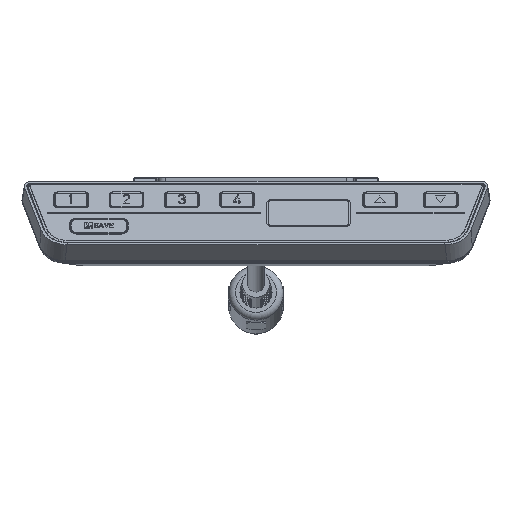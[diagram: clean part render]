
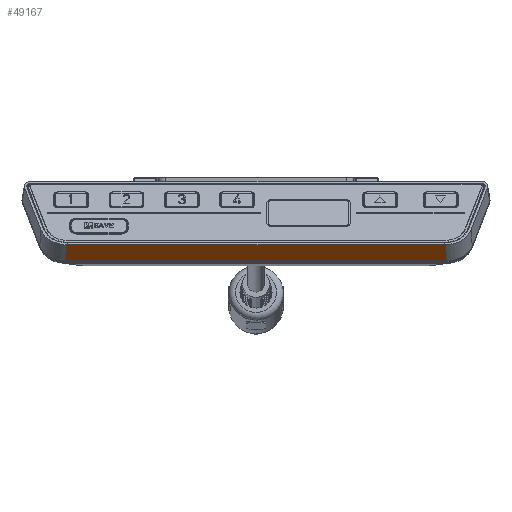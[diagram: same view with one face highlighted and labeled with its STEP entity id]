
A CAD part, front view. The second image highlights one B-rep face of the part: STEP entity #49167.
In plain terms, the highlighted planar face has unit normal (0, -0.675, -0.738).
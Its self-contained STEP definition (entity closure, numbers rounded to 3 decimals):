
#3747=LINE('',#82410,#8291);
#3748=LINE('',#82413,#8292);
#3749=LINE('',#82415,#8293);
#3750=LINE('',#82417,#8294);
#8291=VECTOR('',#62240,1000.);
#8292=VECTOR('',#62241,1000.);
#8293=VECTOR('',#62242,1000.);
#8294=VECTOR('',#62243,1000.);
#17471=ORIENTED_EDGE('',*,*,#29843,.T.);
#17472=ORIENTED_EDGE('',*,*,#29844,.T.);
#17473=ORIENTED_EDGE('',*,*,#29845,.T.);
#17474=ORIENTED_EDGE('',*,*,#29846,.F.);
#29843=EDGE_CURVE('',#36380,#36381,#3747,.T.);
#29844=EDGE_CURVE('',#36381,#36382,#3748,.T.);
#29845=EDGE_CURVE('',#36382,#36383,#3749,.T.);
#29846=EDGE_CURVE('',#36380,#36383,#3750,.T.);
#36380=VERTEX_POINT('',#82411);
#36381=VERTEX_POINT('',#82412);
#36382=VERTEX_POINT('',#82414);
#36383=VERTEX_POINT('',#82416);
#41414=EDGE_LOOP('',(#17471,#17472,#17473,#17474));
#44548=FACE_BOUND('',#41414,.T.);
#46997=PLANE('',#55580);
#49167=ADVANCED_FACE('',(#44548),#46997,.T.);
#55580=AXIS2_PLACEMENT_3D('',#82409,#62238,#62239);
#62238=DIRECTION('',(0.,-0.675,-0.738));
#62239=DIRECTION('',(-1.,0.,0.));
#62240=DIRECTION('',(-0.052,0.737,-0.674));
#62241=DIRECTION('',(1.,0.,0.));
#62242=DIRECTION('',(-0.052,-0.737,0.674));
#62243=DIRECTION('',(1.,0.,0.));
#82409=CARTESIAN_POINT('',(-0.001,-14.018,-20.25));
#82410=CARTESIAN_POINT('',(-55.419,-16.128,-18.318));
#82411=CARTESIAN_POINT('',(-55.515,-14.758,-19.572));
#82412=CARTESIAN_POINT('',(-55.884,-9.477,-24.403));
#82413=CARTESIAN_POINT('',(-0.001,-9.477,-24.404));
#82414=CARTESIAN_POINT('',(55.882,-9.478,-24.404));
#82415=CARTESIAN_POINT('',(55.417,-16.13,-18.32));
#82416=CARTESIAN_POINT('',(55.513,-14.759,-19.574));
#82417=CARTESIAN_POINT('',(0.129,-14.758,-19.573));
